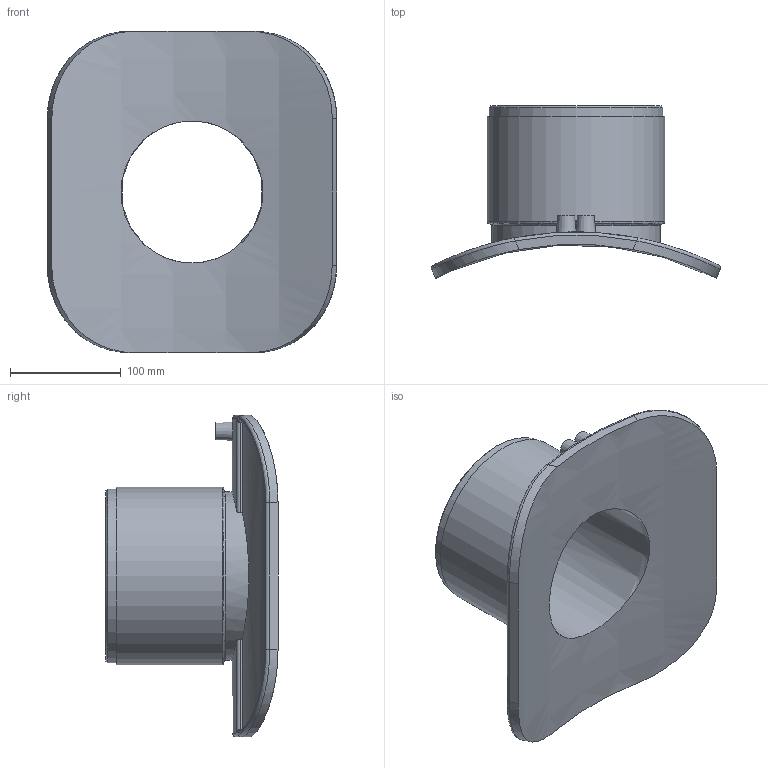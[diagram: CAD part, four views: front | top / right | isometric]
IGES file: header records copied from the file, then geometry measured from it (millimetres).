
Global section: file name: 4758S4560160.ipt; native system: Autodesk Inventor 2015; preprocessor: unknown; author: Кирилл,,11,0; organization: 20170830.202409; date: 20171106.093508; units: millimetre
Bounding box: 261.06 x 155.18 x 290 mm (x, y, z)
Volume: 1289434.4 mm3; surface area: 248386.7 mm2
Topology: 1 solids, 1 shells, 74 faces, 175 edges, 113 vertices
Faces by surface type: plane 22, revolution 21, cylinder 20, bspline 8, cone 3
Full cylindrical faces by diameter (mm): 4 x2, 152 x1, 156.8 x1, 160 x1
